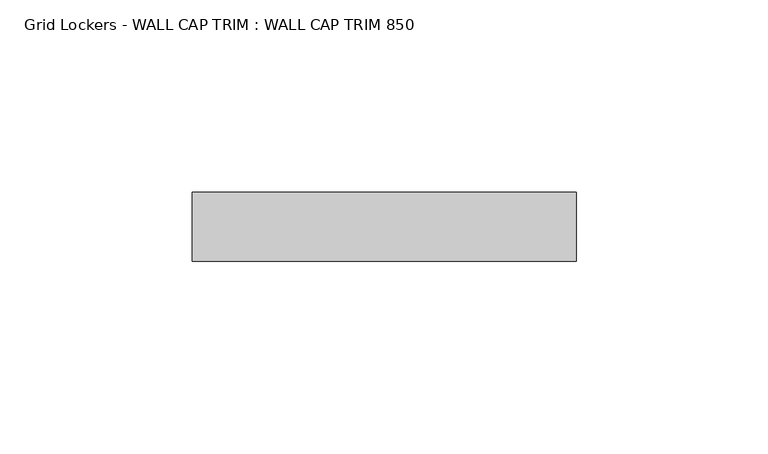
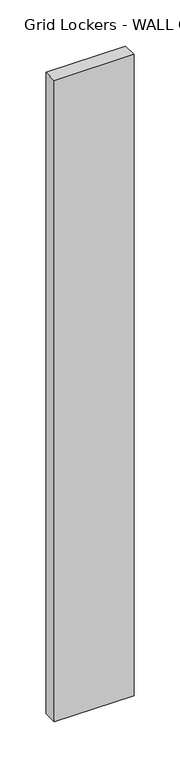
"""IFC4 building model written with IfcOpenShell, lengths in millimetres: furniture geometry, Grid Lockers - WALL CAP TRIM : WALL CAP TRIM 850."""

from ifc_helpers import new_model, si_unit, origin, origin_with_axes, place, context, project, spatial, polyline, outline, extrude, source, transform, mapped, element, save


def grid_lockers_wall_cap_trim_wall_cap_trim_850_96d26339(model_context):
    return source(origin(), model_context, "Body", "SweptSolid", [
        extrude(outline(polyline([(100.0, -18.0), (0.0, -18.0), (0.0, 0.0), (100.0, 0.0), (100.0, -18.0)])), origin_with_axes(), (0.0, 0.0, 1.0), 850.0),
    ])


if __name__ == "__main__":
    model = new_model("IFC4")
    model_context = context("Model", 3, world=origin())
    ifc_project = project(units=[si_unit("LENGTHUNIT", "METRE", prefix="MILLI")], contexts=[model_context])
    site = spatial("IfcSite", under=ifc_project)
    building = spatial("IfcBuilding", under=site)
    placement = place(None, origin())
    grid_lockers_wall_cap_trim_wall_cap_trim_850_shape = grid_lockers_wall_cap_trim_wall_cap_trim_850_96d26339(model_context)
    element("IfcFurniture", 1, ObjectType="Grid Lockers - WALL CAP TRIM : WALL CAP TRIM 850", at=placement, inside=building, context=model_context, shape_type="MappedRepresentation", body=[
        mapped(grid_lockers_wall_cap_trim_wall_cap_trim_850_shape, transform((0.0, 0.0, 0.0), x_axis=(1.0, 0.0, 0.0), y_axis=(0.0, 1.0, 0.0), z_axis=(0.0, 0.0, 1.0))),
    ])
    save(model, "model.ifc")
